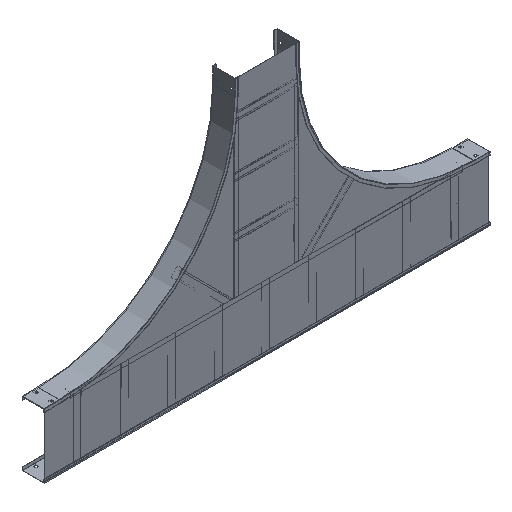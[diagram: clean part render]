
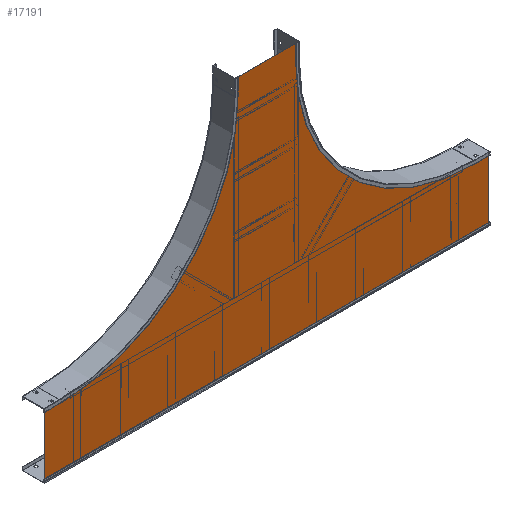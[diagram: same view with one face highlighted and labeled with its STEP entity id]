
A CAD part, isometric view. The second image highlights one B-rep face of the part: STEP entity #17191.
In plain terms, the highlighted planar face has unit normal (0, -1, 0).
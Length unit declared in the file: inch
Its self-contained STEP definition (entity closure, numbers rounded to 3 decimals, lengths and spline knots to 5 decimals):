
#17000=DIRECTION('',(1.,0.,0.));
#17001=VECTOR('',#17000,11.875);
#17002=CARTESIAN_POINT('',(-5.9375,0.,0.));
#17003=LINE('',#17002,#17001);
#17004=DIRECTION('',(0.,0.,-1.));
#17005=VECTOR('',#17004,2.875);
#17006=CARTESIAN_POINT('',(5.9375,0.,0.));
#17007=LINE('',#17006,#17005);
#17008=CARTESIAN_POINT('',(39.,0.,-2.875));
#17009=DIRECTION('',(0.,-1.,0.));
#17010=DIRECTION('',(-1.,0.,0.));
#17011=AXIS2_PLACEMENT_3D('',#17008,#17009,#17010);
#17013=DIRECTION('',(1.,0.,0.));
#17014=VECTOR('',#17013,2.875);
#17015=CARTESIAN_POINT('',(39.,0.,-35.9375));
#17016=LINE('',#17015,#17014);
#17017=DIRECTION('',(0.,0.,-1.));
#17018=VECTOR('',#17017,11.875);
#17019=CARTESIAN_POINT('',(41.875,0.,-35.9375));
#17020=LINE('',#17019,#17018);
#17021=DIRECTION('',(-1.,0.,0.));
#17022=VECTOR('',#17021,83.75);
#17023=CARTESIAN_POINT('',(41.875,0.,-47.8125));
#17024=LINE('',#17023,#17022);
#17025=DIRECTION('',(0.,0.,1.));
#17026=VECTOR('',#17025,11.875);
#17027=CARTESIAN_POINT('',(-41.875,0.,-47.8125));
#17028=LINE('',#17027,#17026);
#17029=DIRECTION('',(1.,0.,0.));
#17030=VECTOR('',#17029,2.875);
#17031=CARTESIAN_POINT('',(-41.875,0.,-35.9375));
#17032=LINE('',#17031,#17030);
#17033=CARTESIAN_POINT('',(-39.,0.,-2.875));
#17034=DIRECTION('',(0.,-1.,0.));
#17035=DIRECTION('',(0.,0.,-1.));
#17036=AXIS2_PLACEMENT_3D('',#17033,#17034,#17035);
#17038=DIRECTION('',(0.,0.,1.));
#17039=VECTOR('',#17038,2.875);
#17040=CARTESIAN_POINT('',(-5.9375,0.,-2.875));
#17041=LINE('',#17040,#17039);
#17124=CARTESIAN_POINT('',(-5.9375,0.,0.));
#17125=CARTESIAN_POINT('',(5.9375,0.,0.));
#17126=VERTEX_POINT('',#17124);
#17127=VERTEX_POINT('',#17125);
#17128=CARTESIAN_POINT('',(5.9375,0.,-2.875));
#17129=VERTEX_POINT('',#17128);
#17130=CARTESIAN_POINT('',(39.,0.,-35.9375));
#17131=VERTEX_POINT('',#17130);
#17132=CARTESIAN_POINT('',(41.875,0.,-35.9375));
#17133=VERTEX_POINT('',#17132);
#17134=CARTESIAN_POINT('',(41.875,0.,-47.8125));
#17135=VERTEX_POINT('',#17134);
#17136=CARTESIAN_POINT('',(-41.875,0.,-47.8125));
#17137=VERTEX_POINT('',#17136);
#17138=CARTESIAN_POINT('',(-41.875,0.,-35.9375));
#17139=VERTEX_POINT('',#17138);
#17140=CARTESIAN_POINT('',(-39.,0.,-35.9375));
#17141=VERTEX_POINT('',#17140);
#17142=CARTESIAN_POINT('',(-5.9375,0.,-2.875));
#17143=VERTEX_POINT('',#17142);
#17164=CARTESIAN_POINT('',(0.,0.,0.));
#17165=DIRECTION('',(0.,1.,0.));
#17166=DIRECTION('',(1.,0.,0.));
#17167=AXIS2_PLACEMENT_3D('',#17164,#17165,#17166);
#17168=PLANE('',#17167);
#17170=ORIENTED_EDGE('',*,*,#17169,.T.);
#17172=ORIENTED_EDGE('',*,*,#17171,.T.);
#17174=ORIENTED_EDGE('',*,*,#17173,.T.);
#17176=ORIENTED_EDGE('',*,*,#17175,.T.);
#17178=ORIENTED_EDGE('',*,*,#17177,.T.);
#17180=ORIENTED_EDGE('',*,*,#17179,.T.);
#17182=ORIENTED_EDGE('',*,*,#17181,.T.);
#17184=ORIENTED_EDGE('',*,*,#17183,.T.);
#17186=ORIENTED_EDGE('',*,*,#17185,.T.);
#17188=ORIENTED_EDGE('',*,*,#17187,.T.);
#17189=EDGE_LOOP('',(#17170,#17172,#17174,#17176,#17178,#17180,#17182,#17184,
#17186,#17188));
#17190=FACE_OUTER_BOUND('',#17189,.F.);
#17191=ADVANCED_FACE('',(#17190),#17168,.F.);
#17012=CIRCLE('',#17011,33.0625);
#17037=CIRCLE('',#17036,33.0625);
#17169=EDGE_CURVE('',#17126,#17127,#17003,.T.);
#17171=EDGE_CURVE('',#17127,#17129,#17007,.T.);
#17173=EDGE_CURVE('',#17129,#17131,#17012,.T.);
#17175=EDGE_CURVE('',#17131,#17133,#17016,.T.);
#17177=EDGE_CURVE('',#17133,#17135,#17020,.T.);
#17179=EDGE_CURVE('',#17135,#17137,#17024,.T.);
#17181=EDGE_CURVE('',#17137,#17139,#17028,.T.);
#17183=EDGE_CURVE('',#17139,#17141,#17032,.T.);
#17185=EDGE_CURVE('',#17141,#17143,#17037,.T.);
#17187=EDGE_CURVE('',#17143,#17126,#17041,.T.);
